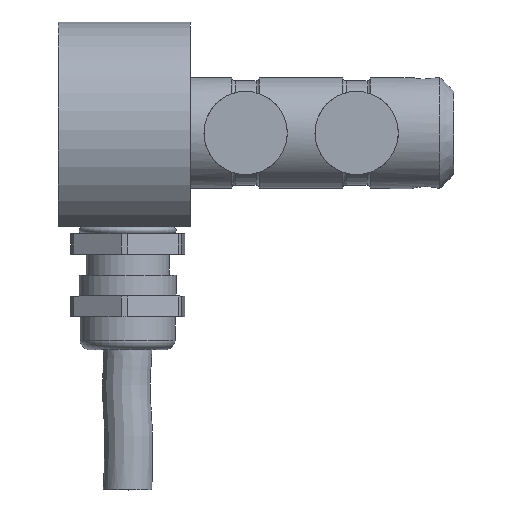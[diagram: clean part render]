
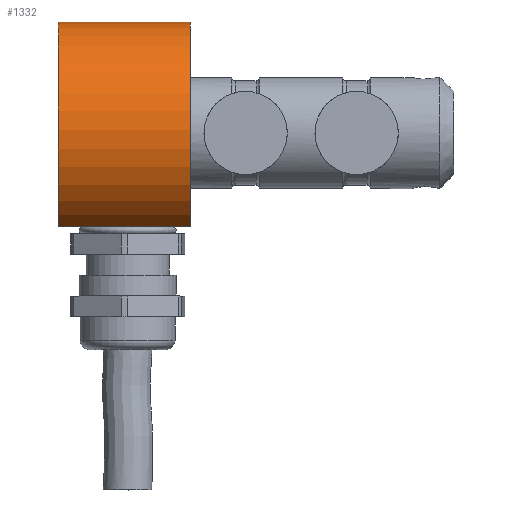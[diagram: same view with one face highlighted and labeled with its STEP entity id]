
A CAD part, top view. The second image highlights one B-rep face of the part: STEP entity #1332.
In plain terms, the highlighted cylindrical face has radius 16 mm (diameter 32 mm), a partial arc.
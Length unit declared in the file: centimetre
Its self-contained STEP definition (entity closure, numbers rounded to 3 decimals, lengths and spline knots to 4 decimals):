
#188=VECTOR('',#2749,1.);
#190=VECTOR('',#2751,1.);
#240=LINE('',#2288,#188);
#242=LINE('',#2293,#190);
#380=CYLINDRICAL_SURFACE('',#1428,1.6);
#440=VERTEX_POINT('',#2289);
#441=VERTEX_POINT('',#2290);
#442=VERTEX_POINT('',#2292);
#443=VERTEX_POINT('',#2294);
#531=CIRCLE('',#1426,1.6);
#533=CIRCLE('',#1429,1.6);
#631=EDGE_CURVE('',#440,#441,#240,.T.);
#633=EDGE_CURVE('',#443,#442,#242,.T.);
#635=EDGE_CURVE('',#441,#443,#531,.T.);
#637=EDGE_CURVE('',#440,#442,#533,.T.);
#885=ORIENTED_EDGE('',*,*,#631,.T.);
#886=ORIENTED_EDGE('',*,*,#635,.T.);
#887=ORIENTED_EDGE('',*,*,#633,.T.);
#888=ORIENTED_EDGE('',*,*,#637,.F.);
#1119=EDGE_LOOP('',(#885,#886,#887,#888));
#1230=FACE_BOUND('',#1119,.T.);
#1332=ADVANCED_FACE('',(#1230),#380,.T.);
#1426=AXIS2_PLACEMENT_3D('',#2297,#2754,#2755);
#1428=AXIS2_PLACEMENT_3D('',#2300,#2758,#2759);
#1429=AXIS2_PLACEMENT_3D('',#2301,#2760,#2761);
#2288=CARTESIAN_POINT('',(0.95,-1.35,-0.8588));
#2289=CARTESIAN_POINT('',(1.9,-1.35,-0.8588));
#2290=CARTESIAN_POINT('',(0.,-1.35,-0.8588));
#2292=CARTESIAN_POINT('',(1.9,-1.35,0.8588));
#2293=CARTESIAN_POINT('',(0.95,-1.35,0.8588));
#2294=CARTESIAN_POINT('',(0.,-1.35,0.8588));
#2297=CARTESIAN_POINT('',(0.,0.,0.));
#2300=CARTESIAN_POINT('',(0.95,0.,0.));
#2301=CARTESIAN_POINT('',(1.9,0.,0.));
#2749=DIRECTION('',(-1.,0.,0.));
#2751=DIRECTION('',(1.,0.,0.));
#2754=DIRECTION('',(1.,0.,0.));
#2755=DIRECTION('',(0.,-1.6,0.));
#2758=DIRECTION('',(1.,0.,0.));
#2759=DIRECTION('',(0.,-1.6,0.));
#2760=DIRECTION('',(1.,0.,0.));
#2761=DIRECTION('',(0.,-1.6,0.));
